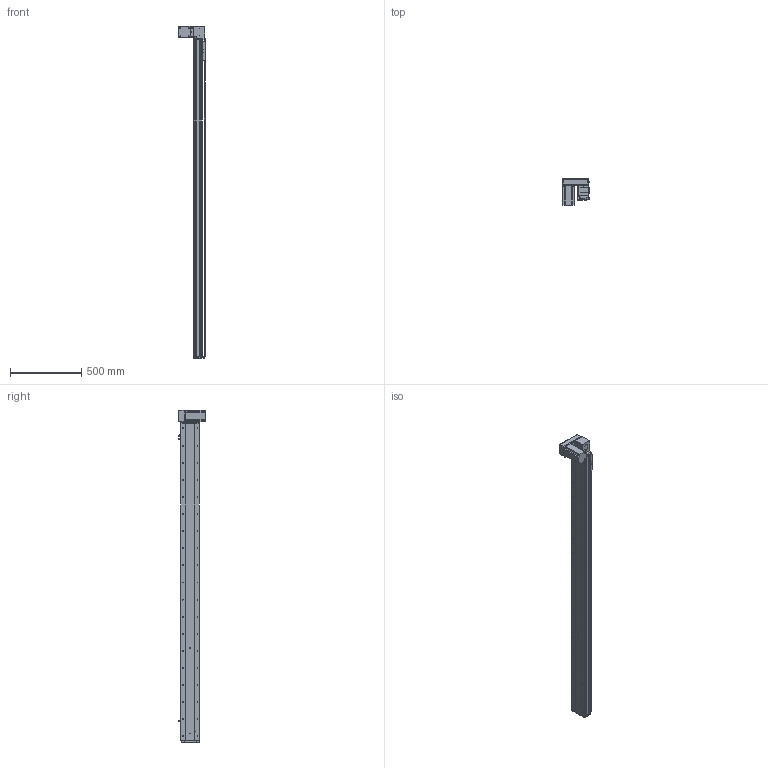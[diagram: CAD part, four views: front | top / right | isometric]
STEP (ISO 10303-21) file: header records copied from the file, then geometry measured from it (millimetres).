
FILE_DESCRIPTION (( 'STEP AP214' ), '1' );
FILE_NAME ('KSD130B-S2000-MRD-CM.STEP', '2019-09-23T02:04:39', ( '微软用户' ), ( '微软中国' ), 'SwSTEP 2.0', 'SolidWorks 2014', '' );
FILE_SCHEMA (( 'AUTOMOTIVE_DESIGN' ));
Length unit declared in the file: millimetre
Products named in the file (12): 130宽模组马达安装板连板上下折丝杆同步带; 覜茼え100遵圉猾敕; U倰嫖萇EEㄜSX672; 130宽盖板半封闭同步带-2000行程; 130宽马达安装板同步带右-改镜向_默认<按加工>; 130宽马达安装板同步带半封闭; 130宽同步带安装座半封闭; 130宽端盖同步带半封闭; 130宽底板半封闭同步带-2000行程; KSD130B-S2000-MRD-CM; 130宽模组保护罩上下左右折-同步带; 台达ECMA－C20807AS伺服电机
Assembly tree (13 placements, depth 2):
  KSD130B-S2000-MRD-CM
    130宽底板半封闭同步带-2000行程
    130宽端盖同步带半封闭
    130宽同步带安装座半封闭
    130宽马达安装板同步带半封闭
    130宽马达安装板同步带右-改镜向_默认<按加工>
    130宽盖板半封闭同步带-2000行程
    U倰嫖萇EEㄜSX672  x3
    覜茼え100遵圉猾敕
    130宽模组马达安装板连板上下折丝杆同步带
    台达ECMA－C20807AS伺服电机
    130宽模组保护罩上下左右折-同步带
Bounding box: 186 x 184.8 x 2333 mm (x, y, z)
Volume: 7663444.9 mm3; surface area: 2184448.6 mm2
Topology: 14 solids, 14 shells, 1787 faces, 5225 edges, 3301 vertices
Faces by surface type: cylinder 886, plane 658, cone 243
Entity records: 61427 total; most frequent: CARTESIAN_POINT 11986, DIRECTION 9239, ORIENTED_EDGE 8950, EDGE_CURVE 4475, AXIS2_PLACEMENT_3D 3414, VERTEX_POINT 2925, LINE 2411, VECTOR 2411
